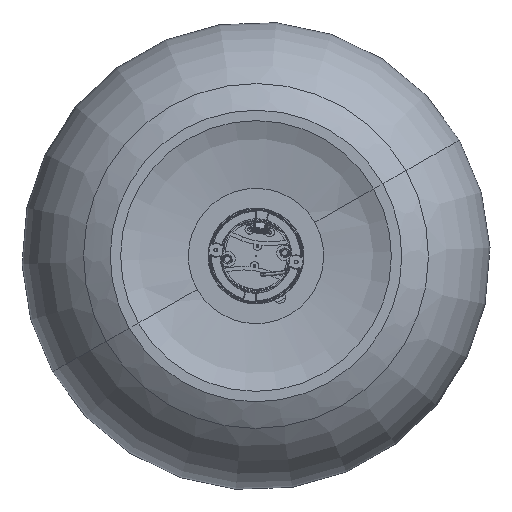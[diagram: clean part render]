
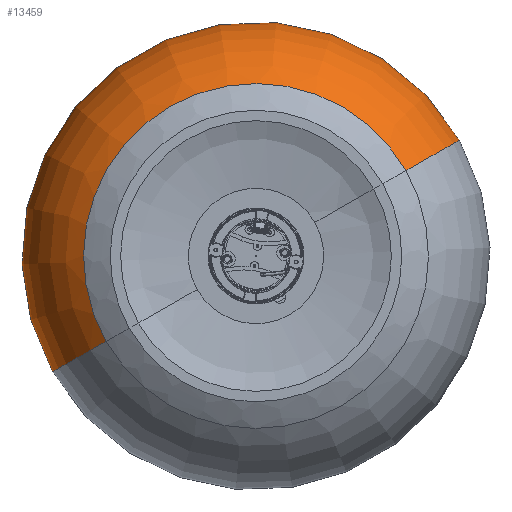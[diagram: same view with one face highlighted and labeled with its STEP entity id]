
A CAD part, front view. The second image highlights one B-rep face of the part: STEP entity #13459.
In plain terms, the highlighted toroidal (fillet/blend) face has major radius 82.534 mm and minor radius 125 mm.
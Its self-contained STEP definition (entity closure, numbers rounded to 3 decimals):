
#2841 = ORIENTED_EDGE ( 'NONE', *, *, #37501, .T. ) ;
#3705 = DIRECTION ( 'NONE',  ( 0.495, 0., -0.869 ) ) ;
#4464 = CIRCLE ( 'NONE', #45691, 125. ) ;
#5671 = DIRECTION ( 'NONE',  ( 0.869, 0., 0.495 ) ) ;
#6753 = EDGE_CURVE ( 'NONE', #65153, #42275, #51763, .T. ) ;
#7408 = CIRCLE ( 'NONE', #44894, 125. ) ;
#9186 = DIRECTION ( 'NONE',  ( -0.869, 0., -0.495 ) ) ;
#11520 = CARTESIAN_POINT ( 'NONE',  ( -85.054, -143.045, -28.844 ) ) ;
#13459 = ADVANCED_FACE ( 'NONE', ( #48777 ), #66073, .T. ) ;
#13557 = CARTESIAN_POINT ( 'NONE',  ( -169.458, -64.36, -76.903 ) ) ;
#17968 = ORIENTED_EDGE ( 'NONE', *, *, #53846, .T. ) ;
#21174 = AXIS2_PLACEMENT_3D ( 'NONE', #71727, #60833, #35876 ) ;
#22053 = EDGE_LOOP ( 'NONE', ( #2841, #17968, #32114, #74446 ) ) ;
#25048 = CARTESIAN_POINT ( 'NONE',  ( 119.504, -246.384, 87.632 ) ) ;
#26833 = CARTESIAN_POINT ( 'NONE',  ( 58.39, -143.045, 52.833 ) ) ;
#27738 = CARTESIAN_POINT ( 'NONE',  ( -13.332, -246.384, 11.995 ) ) ;
#31585 = VERTEX_POINT ( 'NONE', #13557 ) ;
#32114 = ORIENTED_EDGE ( 'NONE', *, *, #6753, .F. ) ;
#34057 = VERTEX_POINT ( 'NONE', #64284 ) ;
#34192 = DIRECTION ( 'NONE',  ( 0.869, 0., 0.495 ) ) ;
#35876 = DIRECTION ( 'NONE',  ( 0.869, 0., 0.495 ) ) ;
#37501 = EDGE_CURVE ( 'NONE', #34057, #31585, #72461, .T. ) ;
#38857 = AXIS2_PLACEMENT_3D ( 'NONE', #38986, #56577, #34192 ) ;
#38986 = CARTESIAN_POINT ( 'NONE',  ( -13.332, -64.36, 11.995 ) ) ;
#39264 = AXIS2_PLACEMENT_3D ( 'NONE', #27738, #77206, #41704 ) ;
#41704 = DIRECTION ( 'NONE',  ( 0.869, 0., 0.495 ) ) ;
#42275 = VERTEX_POINT ( 'NONE', #70113 ) ;
#44894 = AXIS2_PLACEMENT_3D ( 'NONE', #26833, #3705, #9186 ) ;
#45691 = AXIS2_PLACEMENT_3D ( 'NONE', #11520, #59255, #5671 ) ;
#48777 = FACE_OUTER_BOUND ( 'NONE', #22053, .T. ) ;
#51763 = CIRCLE ( 'NONE', #39264, 152.861 ) ;
#53846 = EDGE_CURVE ( 'NONE', #31585, #42275, #4464, .T. ) ;
#56577 = DIRECTION ( 'NONE',  ( 0., -1., 0. ) ) ;
#56907 = EDGE_CURVE ( 'NONE', #34057, #65153, #7408, .T. ) ;
#59255 = DIRECTION ( 'NONE',  ( -0.495, 0., 0.869 ) ) ;
#60833 = DIRECTION ( 'NONE',  ( 0., -1., 0. ) ) ;
#64284 = CARTESIAN_POINT ( 'NONE',  ( 142.793, -64.36, 100.893 ) ) ;
#65153 = VERTEX_POINT ( 'NONE', #25048 ) ;
#66073 = TOROIDAL_SURFACE ( 'NONE', #21174, 82.534, 125. ) ;
#70113 = CARTESIAN_POINT ( 'NONE',  ( -146.169, -246.384, -63.643 ) ) ;
#71727 = CARTESIAN_POINT ( 'NONE',  ( -13.332, -143.045, 11.995 ) ) ;
#72461 = CIRCLE ( 'NONE', #38857, 179.661 ) ;
#74446 = ORIENTED_EDGE ( 'NONE', *, *, #56907, .F. ) ;
#77206 = DIRECTION ( 'NONE',  ( 0., -1., 0. ) ) ;
